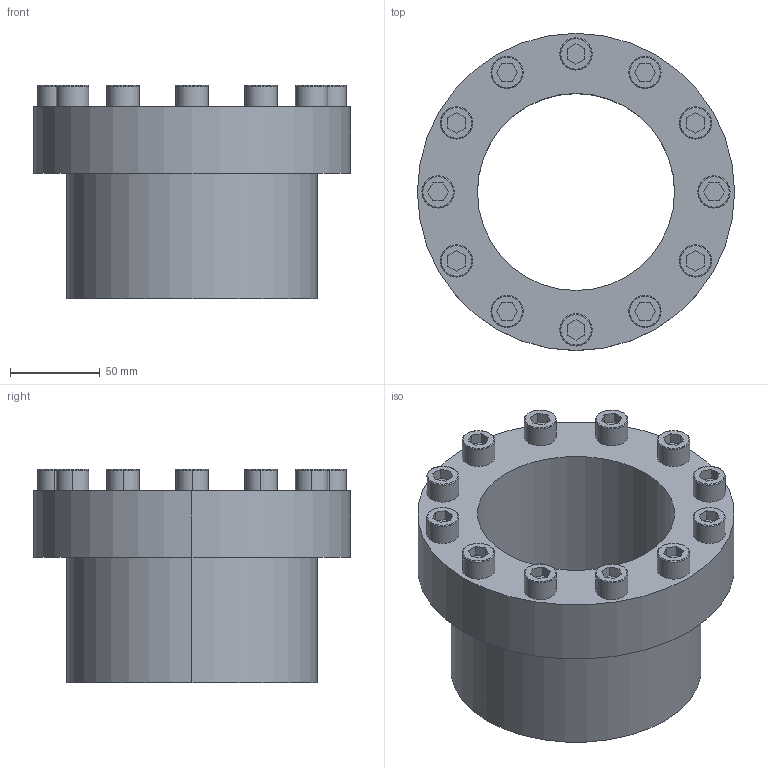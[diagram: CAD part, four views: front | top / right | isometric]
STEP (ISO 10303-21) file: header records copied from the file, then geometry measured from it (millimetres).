
FILE_DESCRIPTION (( 'STEP AP203' ), '1' );
FILE_NAME ('PL-C 110-140.STEP', '2021-10-22T08:47:25', ( '' ), ( '' ), 'SwSTEP 2.0', 'SolidWorks 2018', '' );
FILE_SCHEMA (( 'CONFIG_CONTROL_DESIGN' ));
Length unit declared in the file: millimetre
Products named in the file (1): PL-C 110-140
Bounding box: 177 x 177 x 119 mm (x, y, z)
Volume: 998419.3 mm3; surface area: 128989.5 mm2
Topology: 1 solids, 1 shells, 153 faces, 354 edges, 228 vertices
Faces by surface type: plane 99, cylinder 30, torus 24
Entity records: 4405 total; most frequent: DIRECTION 770, CARTESIAN_POINT 736, ORIENTED_EDGE 708, EDGE_CURVE 354, AXIS2_PLACEMENT_3D 262, VECTOR 246, LINE 246, VERTEX_POINT 228
